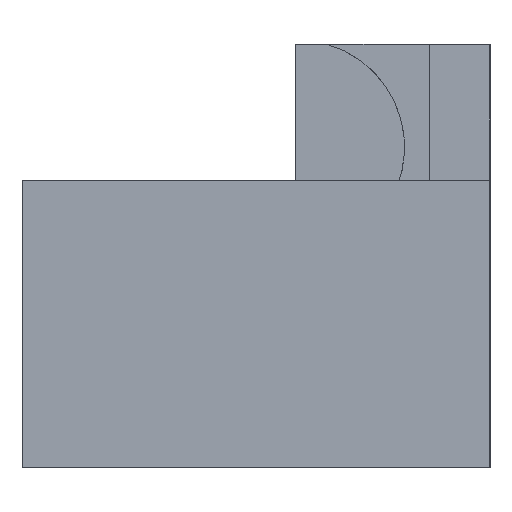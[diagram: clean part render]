
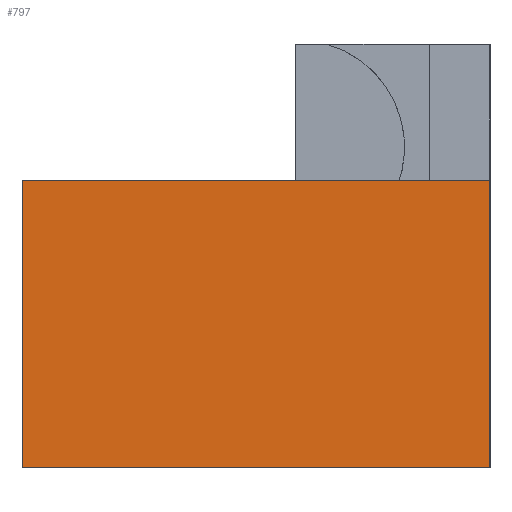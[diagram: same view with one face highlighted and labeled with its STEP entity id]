
A CAD part, left-side view. The second image highlights one B-rep face of the part: STEP entity #797.
In plain terms, the highlighted planar face has unit normal (-1, 0, 0).
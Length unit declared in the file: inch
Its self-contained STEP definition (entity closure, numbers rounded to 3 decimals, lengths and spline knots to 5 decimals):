
#94=FACE_OUTER_BOUND('',#139,.T.);
#139=EDGE_LOOP('',(#692,#693,#694,#695));
#151=LINE('',#1106,#237);
#167=LINE('',#1138,#253);
#184=LINE('',#1177,#270);
#227=LINE('',#1321,#313);
#237=VECTOR('',#890,0.3937);
#253=VECTOR('',#910,0.3937);
#270=VECTOR('',#941,0.3937);
#313=VECTOR('',#1076,0.3937);
#322=VERTEX_POINT('',#1103);
#323=VERTEX_POINT('',#1105);
#337=VERTEX_POINT('',#1137);
#352=VERTEX_POINT('',#1175);
#398=EDGE_CURVE('',#323,#322,#151,.T.);
#414=EDGE_CURVE('',#323,#337,#167,.T.);
#434=EDGE_CURVE('',#322,#352,#184,.T.);
#500=EDGE_CURVE('',#337,#352,#227,.T.);
#692=ORIENTED_EDGE('',*,*,#398,.T.);
#693=ORIENTED_EDGE('',*,*,#434,.T.);
#694=ORIENTED_EDGE('',*,*,#500,.F.);
#695=ORIENTED_EDGE('',*,*,#414,.F.);
#757=PLANE('',#872);
#797=ADVANCED_FACE('',(#94),#757,.T.);
#872=AXIS2_PLACEMENT_3D('',#1320,#1074,#1075);
#890=DIRECTION('',(0.,1.,0.));
#910=DIRECTION('',(0.,0.,-1.));
#941=DIRECTION('',(0.,0.,-1.));
#1074=DIRECTION('center_axis',(-1.,0.,0.));
#1075=DIRECTION('ref_axis',(0.,1.,0.));
#1076=DIRECTION('',(0.,1.,0.));
#1103=CARTESIAN_POINT('',(-1.6,-2.35146,1.35));
#1105=CARTESIAN_POINT('',(-1.6,-3.9,1.35));
#1106=CARTESIAN_POINT('',(-1.6,-3.9,1.35));
#1137=CARTESIAN_POINT('',(-1.6,-3.9,0.4));
#1138=CARTESIAN_POINT('',(-1.6,-3.9,2.));
#1175=CARTESIAN_POINT('',(-1.6,-2.35146,0.4));
#1177=CARTESIAN_POINT('',(-1.6,-2.35146,2.));
#1320=CARTESIAN_POINT('Origin',(-1.6,-3.9,2.));
#1321=CARTESIAN_POINT('',(-1.6,-3.75,0.4));
